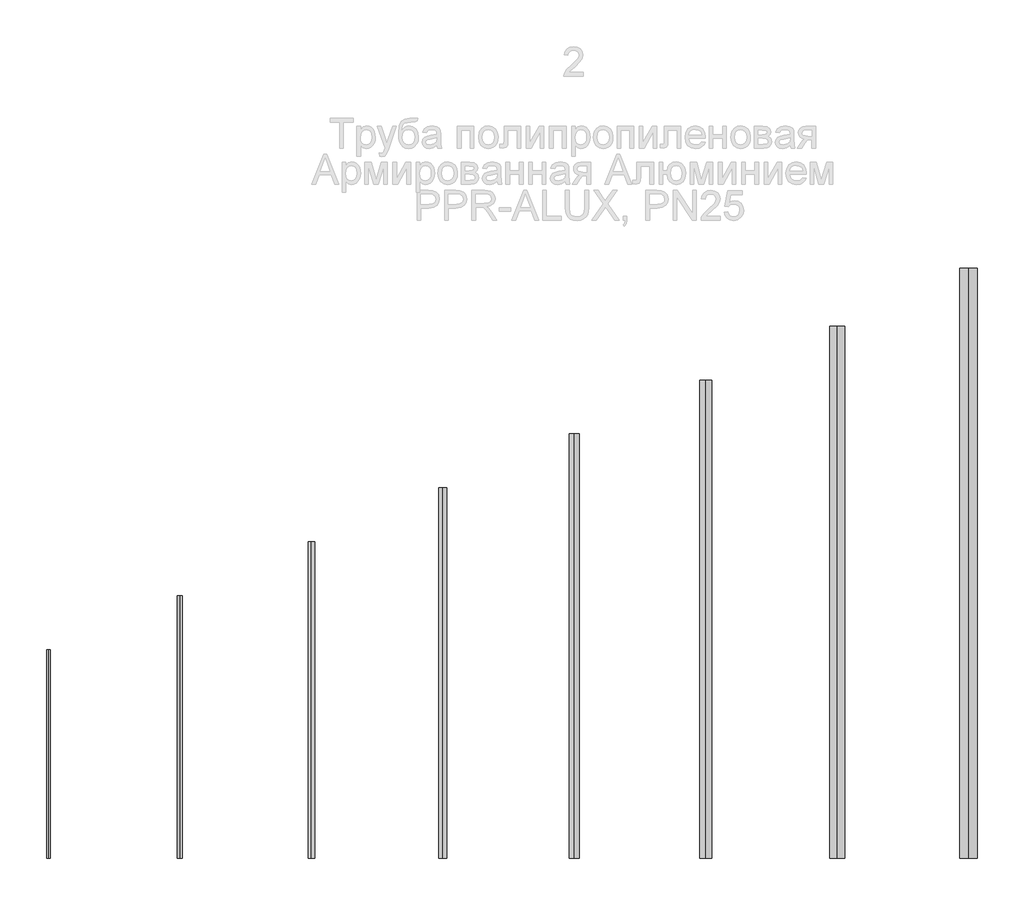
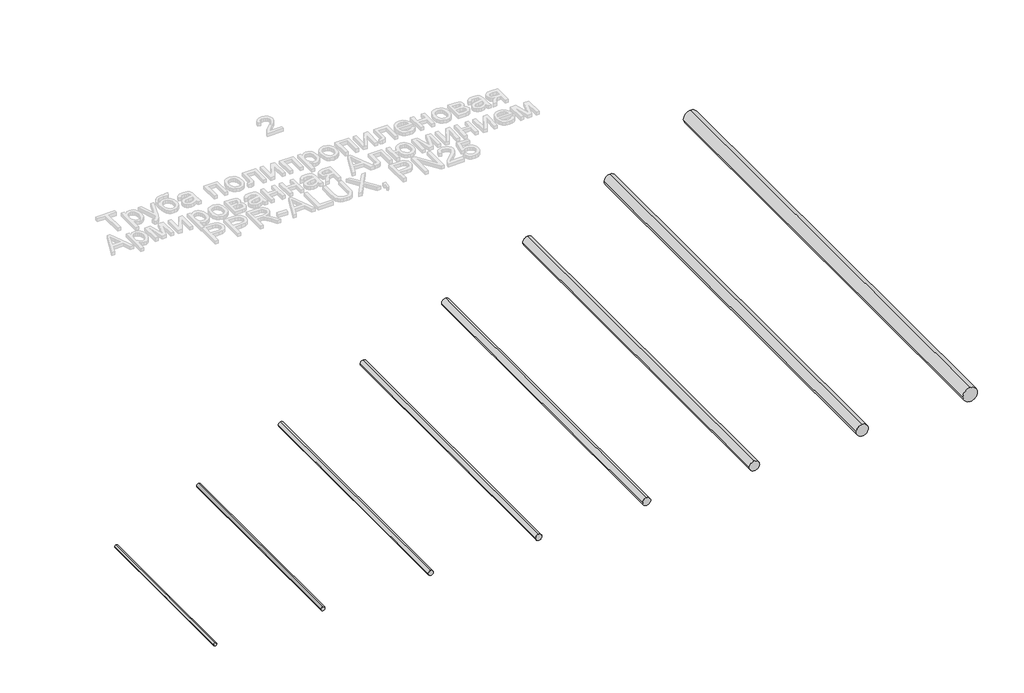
# One storey, part 1 of 2: 8 pipe segments.
"""IFC4 building model written with IfcOpenShell, lengths in millimetres."""

from ifc_helpers import new_model, si_unit, point, frame, frame_2d, origin, place, context, project, spatial, circle_curve, trimmed, segment, composite_curve, outline, extrude, element, save

model = new_model("IFC4")

# Units and contexts
model_context = context("Model", 3, world=origin())
ifc_project = project(units=[si_unit("LENGTHUNIT", "METRE", prefix="MILLI")], contexts=[model_context])

# Site, building, storey
site = spatial("IfcSite", under=ifc_project)
building = spatial("IfcBuilding", under=site)
storey = spatial("IfcBuildingStorey", under=building, Name="Этаж 01", Elevation=0.0)

# Pipe segments
placement = place(None, origin())
element("IfcPipeSegment", 1, ObjectType="VALTEC_PPR-ALUX, PN25- VTp.700.AL25_ПолипропиленАрмАлюминием", at=placement, inside=storey, context=model_context, shape_type="SweptSolid", body=[
    extrude(outline(composite_curve([segment(trimmed(circle_curve(frame_2d((0.0, 19.704222)), 10.0), [point((0.0, 29.704222))], [point((10.0, 19.704222))], False, "CARTESIAN"), True, "CONTINUOUS"), segment(trimmed(circle_curve(frame_2d((0.0, 19.704222)), 10.0), [point((10.0, 19.704222))], [point((0.0, 9.704222))], False, "CARTESIAN"), True, "CONTINUOUS"), segment(trimmed(circle_curve(frame_2d((0.0, 19.704222)), 10.0), [point((0.0, 9.704222))], [point((-10.0, 19.704222))], False, "CARTESIAN"), True, "CONTINUOUS"), segment(trimmed(circle_curve(frame_2d((0.0, 19.704222)), 10.0), [point((-10.0, 19.704222))], [point((0.0, 29.704222))], False, "CARTESIAN"), True, "CONTINUOUS")], self_intersect=False)), frame((0.0, 0.0, 0.0), z_axis=(0.0, 1.0, 0.0), x_axis=(0.0, 0.0, 1.0)), (0.0, 0.0, 1.0), 1060.0),
])
element("IfcPipeSegment", 2, ObjectType="VALTEC_PPR-ALUX, PN25- VTp.700.AL25_ПолипропиленАрмАлюминием", at=placement, inside=storey, context=model_context, shape_type="SweptSolid", body=[
    extrude(outline(composite_curve([segment(trimmed(circle_curve(frame_2d((0.0, 688.2756506)), 12.5), [point((0.0, 675.7756506))], [point((-12.5, 688.2756506))], False, "CARTESIAN"), True, "CONTINUOUS"), segment(trimmed(circle_curve(frame_2d((0.0, 688.2756506)), 12.5), [point((-12.5, 688.2756506))], [point((0.0, 700.7756506))], False, "CARTESIAN"), True, "CONTINUOUS"), segment(trimmed(circle_curve(frame_2d((0.0, 688.2756506)), 12.5), [point((0.0, 700.7756506))], [point((12.5, 688.2756506))], False, "CARTESIAN"), True, "CONTINUOUS"), segment(trimmed(circle_curve(frame_2d((0.0, 688.2756506)), 12.5), [point((12.5, 688.2756506))], [point((0.0, 675.7756506))], False, "CARTESIAN"), True, "CONTINUOUS")], self_intersect=False)), frame((0.0, 0.0, 0.0), z_axis=(0.0, 1.0, 0.0), x_axis=(0.0, 0.0, 1.0)), (0.0, 0.0, 1.0), 1334.5034014),
])
element("IfcPipeSegment", 3, ObjectType="VALTEC_PPR-ALUX, PN25- VTp.700.AL25_ПолипропиленАрмАлюминием", at=placement, inside=storey, context=model_context, shape_type="SweptSolid", body=[
    extrude(outline(composite_curve([segment(trimmed(circle_curve(frame_2d((0.0, 1356.8470791)), 16.0), [point((0.0, 1372.8470791))], [point((16.0, 1356.8470791))], False, "CARTESIAN"), True, "CONTINUOUS"), segment(trimmed(circle_curve(frame_2d((0.0, 1356.8470791)), 16.0), [point((16.0, 1356.8470791))], [point((0.0, 1340.8470791))], False, "CARTESIAN"), True, "CONTINUOUS"), segment(trimmed(circle_curve(frame_2d((0.0, 1356.8470791)), 16.0), [point((0.0, 1340.8470791))], [point((-16.0, 1356.8470791))], False, "CARTESIAN"), True, "CONTINUOUS"), segment(trimmed(circle_curve(frame_2d((0.0, 1356.8470791)), 16.0), [point((-16.0, 1356.8470791))], [point((0.0, 1372.8470791))], False, "CARTESIAN"), True, "CONTINUOUS")], self_intersect=False)), frame((0.0, 0.0, 0.0), z_axis=(0.0, 1.0, 0.0), x_axis=(0.0, 0.0, 1.0)), (0.0, 0.0, 1.0), 1609.0068027),
])
element("IfcPipeSegment", 4, ObjectType="VALTEC_PPR-ALUX, PN25- VTp.700.AL25_ПолипропиленАрмАлюминием", at=placement, inside=storey, context=model_context, shape_type="SweptSolid", body=[
    extrude(outline(composite_curve([segment(trimmed(circle_curve(frame_2d((0.0, 2025.4185077)), 20.0), [point((0.0, 2045.4185077))], [point((20.0, 2025.4185077))], False, "CARTESIAN"), True, "CONTINUOUS"), segment(trimmed(circle_curve(frame_2d((0.0, 2025.4185077)), 20.0), [point((20.0, 2025.4185077))], [point((0.0, 2005.4185077))], False, "CARTESIAN"), True, "CONTINUOUS"), segment(trimmed(circle_curve(frame_2d((0.0, 2025.4185077)), 20.0), [point((0.0, 2005.4185077))], [point((-20.0, 2025.4185077))], False, "CARTESIAN"), True, "CONTINUOUS"), segment(trimmed(circle_curve(frame_2d((0.0, 2025.4185077)), 20.0), [point((-20.0, 2025.4185077))], [point((0.0, 2045.4185077))], False, "CARTESIAN"), True, "CONTINUOUS")], self_intersect=False)), frame((0.0, 0.0, 0.0), z_axis=(0.0, 1.0, 0.0), x_axis=(0.0, 0.0, 1.0)), (0.0, 0.0, 1.0), 1883.5102041),
])
element("IfcPipeSegment", 5, ObjectType="VALTEC_PPR-ALUX, PN25- VTp.700.AL25_ПолипропиленАрмАлюминием", at=placement, inside=storey, context=model_context, shape_type="SweptSolid", body=[
    extrude(outline(composite_curve([segment(trimmed(circle_curve(frame_2d((0.0, 2693.9899363)), 25.0), [point((0.0, 2718.9899363))], [point((25.0, 2693.9899363))], False, "CARTESIAN"), True, "CONTINUOUS"), segment(trimmed(circle_curve(frame_2d((0.0, 2693.9899363)), 25.0), [point((25.0, 2693.9899363))], [point((0.0, 2668.9899363))], False, "CARTESIAN"), True, "CONTINUOUS"), segment(trimmed(circle_curve(frame_2d((0.0, 2693.9899363)), 25.0), [point((0.0, 2668.9899363))], [point((-25.0, 2693.9899363))], False, "CARTESIAN"), True, "CONTINUOUS"), segment(trimmed(circle_curve(frame_2d((0.0, 2693.9899363)), 25.0), [point((-25.0, 2693.9899363))], [point((0.0, 2718.9899363))], False, "CARTESIAN"), True, "CONTINUOUS")], self_intersect=False)), frame((0.0, 0.0, 0.0), z_axis=(0.0, 1.0, 0.0), x_axis=(0.0, 0.0, 1.0)), (0.0, 0.0, 1.0), 2158.0136054),
])
element("IfcPipeSegment", 6, ObjectType="VALTEC_PPR-ALUX, PN25- VTp.700.AL25_ПолипропиленАрмАлюминием", at=placement, inside=storey, context=model_context, shape_type="SweptSolid", body=[
    extrude(outline(composite_curve([segment(trimmed(circle_curve(frame_2d((0.0, 3362.5613648)), 31.5), [point((0.0, 3394.0613648))], [point((31.5, 3362.5613648))], False, "CARTESIAN"), True, "CONTINUOUS"), segment(trimmed(circle_curve(frame_2d((0.0, 3362.5613648)), 31.5), [point((31.5, 3362.5613648))], [point((0.0, 3331.0613648))], False, "CARTESIAN"), True, "CONTINUOUS"), segment(trimmed(circle_curve(frame_2d((0.0, 3362.5613648)), 31.5), [point((0.0, 3331.0613648))], [point((-31.5, 3362.5613648))], False, "CARTESIAN"), True, "CONTINUOUS"), segment(trimmed(circle_curve(frame_2d((0.0, 3362.5613648)), 31.5), [point((-31.5, 3362.5613648))], [point((0.0, 3394.0613648))], False, "CARTESIAN"), True, "CONTINUOUS")], self_intersect=False)), frame((0.0, 0.0, 0.0), z_axis=(0.0, 1.0, 0.0), x_axis=(0.0, 0.0, 1.0)), (0.0, 0.0, 1.0), 2432.5170068),
])
element("IfcPipeSegment", 7, ObjectType="VALTEC_PPR-ALUX, PN25- VTp.700.AL25_ПолипропиленАрмАлюминием", at=placement, inside=storey, context=model_context, shape_type="SweptSolid", body=[
    extrude(outline(composite_curve([segment(trimmed(circle_curve(frame_2d((0.0, 4031.1327934)), 37.5), [point((0.0, 4068.6327934))], [point((37.5, 4031.1327934))], False, "CARTESIAN"), True, "CONTINUOUS"), segment(trimmed(circle_curve(frame_2d((0.0, 4031.1327934)), 37.5), [point((37.5, 4031.1327934))], [point((0.0, 3993.6327934))], False, "CARTESIAN"), True, "CONTINUOUS"), segment(trimmed(circle_curve(frame_2d((0.0, 4031.1327934)), 37.5), [point((0.0, 3993.6327934))], [point((-37.5, 4031.1327934))], False, "CARTESIAN"), True, "CONTINUOUS"), segment(trimmed(circle_curve(frame_2d((0.0, 4031.1327934)), 37.5), [point((-37.5, 4031.1327934))], [point((0.0, 4068.6327934))], False, "CARTESIAN"), True, "CONTINUOUS")], self_intersect=False)), frame((0.0, 0.0, 0.0), z_axis=(0.0, 1.0, 0.0), x_axis=(0.0, 0.0, 1.0)), (0.0, 0.0, 1.0), 2707.0204082),
])
element("IfcPipeSegment", 8, ObjectType="VALTEC_PPR-ALUX, PN25- VTp.700.AL25_ПолипропиленАрмАлюминием", at=placement, inside=storey, context=model_context, shape_type="SweptSolid", body=[
    extrude(outline(composite_curve([segment(trimmed(circle_curve(frame_2d((0.0, 4699.704222)), 45.0), [point((0.0, 4744.704222))], [point((45.0, 4699.704222))], False, "CARTESIAN"), True, "CONTINUOUS"), segment(trimmed(circle_curve(frame_2d((0.0, 4699.704222)), 45.0), [point((45.0, 4699.704222))], [point((0.0, 4654.704222))], False, "CARTESIAN"), True, "CONTINUOUS"), segment(trimmed(circle_curve(frame_2d((0.0, 4699.704222)), 45.0), [point((0.0, 4654.704222))], [point((-45.0, 4699.704222))], False, "CARTESIAN"), True, "CONTINUOUS"), segment(trimmed(circle_curve(frame_2d((0.0, 4699.704222)), 45.0), [point((-45.0, 4699.704222))], [point((0.0, 4744.704222))], False, "CARTESIAN"), True, "CONTINUOUS")], self_intersect=False)), frame((0.0, 0.0, 0.0), z_axis=(0.0, 1.0, 0.0), x_axis=(0.0, 0.0, 1.0)), (0.0, 0.0, 1.0), 3000.0),
])

save(model, "model.ifc")
